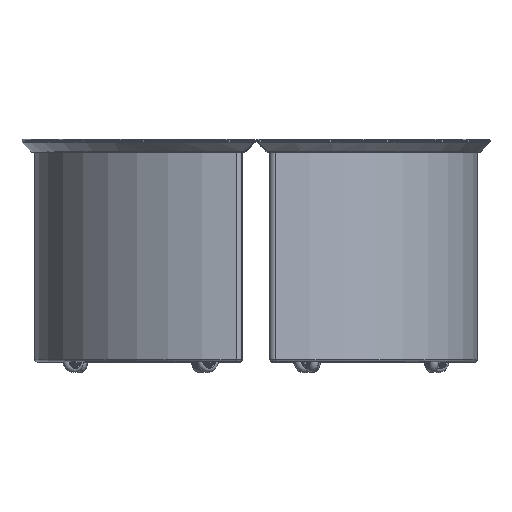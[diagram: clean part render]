
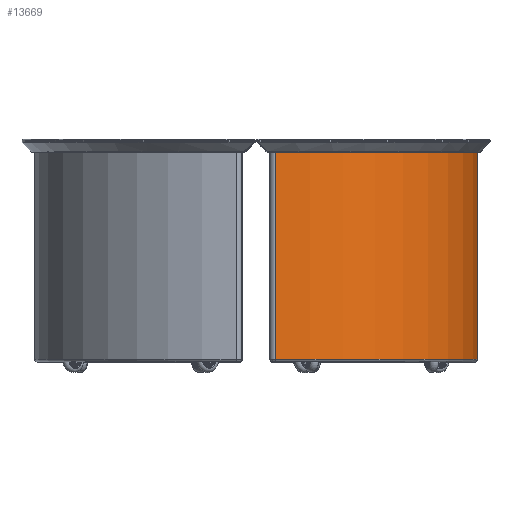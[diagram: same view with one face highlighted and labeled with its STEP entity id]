
A CAD part, top view. The second image highlights one B-rep face of the part: STEP entity #13669.
In plain terms, the highlighted cylindrical face has radius 400 mm (diameter 800 mm), a partial arc.
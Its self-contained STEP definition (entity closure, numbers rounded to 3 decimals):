
#1653=FACE_OUTER_BOUND('',#2459,.T.);
#2459=EDGE_LOOP('',(#10603,#10604,#10605,#10606));
#3318=LINE('',#23521,#4219);
#3321=LINE('',#23532,#4222);
#4219=VECTOR('',#17654,10.);
#4222=VECTOR('',#17669,10.);
#5006=CIRCLE('',#14836,400.);
#5014=CIRCLE('',#14850,400.);
#5980=VERTEX_POINT('',#23466);
#5981=VERTEX_POINT('',#23470);
#5988=VERTEX_POINT('',#23520);
#5989=VERTEX_POINT('',#23524);
#7618=EDGE_CURVE('',#5981,#5980,#5006,.T.);
#7631=EDGE_CURVE('',#5980,#5988,#3318,.T.);
#7633=EDGE_CURVE('',#5988,#5989,#5014,.T.);
#7637=EDGE_CURVE('',#5989,#5981,#3321,.T.);
#10603=ORIENTED_EDGE('',*,*,#7618,.F.);
#10604=ORIENTED_EDGE('',*,*,#7637,.F.);
#10605=ORIENTED_EDGE('',*,*,#7633,.F.);
#10606=ORIENTED_EDGE('',*,*,#7631,.F.);
#13156=CYLINDRICAL_SURFACE('',#14854,400.);
#13669=ADVANCED_FACE('',(#1653),#13156,.T.);
#14836=AXIS2_PLACEMENT_3D('',#23472,#17624,#17625);
#14850=AXIS2_PLACEMENT_3D('',#23525,#17659,#17660);
#14854=AXIS2_PLACEMENT_3D('',#23533,#17670,#17671);
#17624=DIRECTION('center_axis',(0.,-1.,0.));
#17625=DIRECTION('ref_axis',(0.707,0.,-0.707));
#17654=DIRECTION('',(0.,1.,0.));
#17659=DIRECTION('center_axis',(0.,1.,0.));
#17660=DIRECTION('ref_axis',(1.,0.,0.));
#17669=DIRECTION('',(0.,-1.,0.));
#17670=DIRECTION('center_axis',(0.,-1.,0.));
#17671=DIRECTION('ref_axis',(1.,0.,0.));
#23466=CARTESIAN_POINT('',(399.868,25.,-10.256));
#23470=CARTESIAN_POINT('',(10.256,25.,-399.868));
#23472=CARTESIAN_POINT('Origin',(0.,25.,0.));
#23520=CARTESIAN_POINT('',(399.868,425.,-10.256));
#23521=CARTESIAN_POINT('',(399.868,425.,-10.256));
#23524=CARTESIAN_POINT('',(10.256,425.,-399.868));
#23525=CARTESIAN_POINT('Origin',(0.,425.,0.));
#23532=CARTESIAN_POINT('',(10.256,425.,-399.868));
#23533=CARTESIAN_POINT('Origin',(0.,425.,0.));
